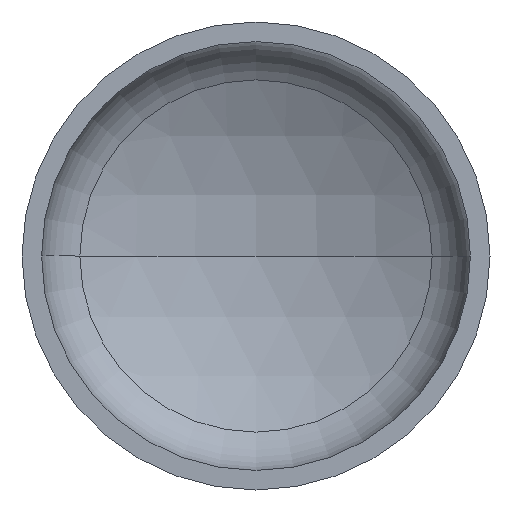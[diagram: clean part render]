
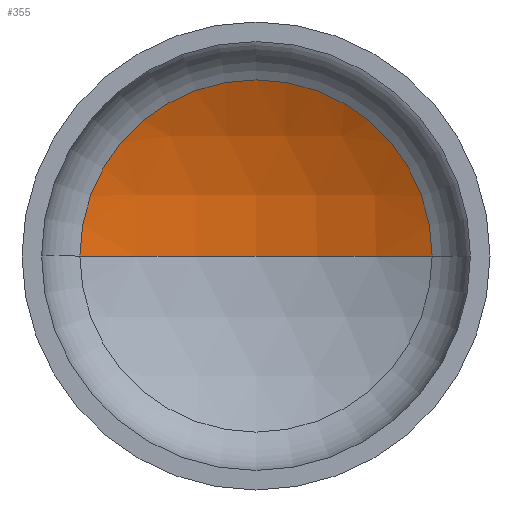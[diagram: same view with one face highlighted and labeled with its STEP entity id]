
A CAD part, front view. The second image highlights one B-rep face of the part: STEP entity #355.
In plain terms, the highlighted spherical face has radius 1760 mm.
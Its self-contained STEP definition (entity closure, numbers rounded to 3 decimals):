
#2 = EDGE_LOOP ( 'NONE', ( #23, #12, #107 ) ) ;
#4 = AXIS2_PLACEMENT_3D ( 'NONE', #189, #333, #280 ) ;
#12 = ORIENTED_EDGE ( 'NONE', *, *, #132, .T. ) ;
#17 = VERTEX_POINT ( 'NONE', #297 ) ;
#23 = ORIENTED_EDGE ( 'NONE', *, *, #347, .F. ) ;
#35 = DIRECTION ( 'NONE',  ( 0., -1., 0. ) ) ;
#60 = AXIS2_PLACEMENT_3D ( 'NONE', #258, #285, #128 ) ;
#63 = AXIS2_PLACEMENT_3D ( 'NONE', #162, #35, #184 ) ;
#93 = VERTEX_POINT ( 'NONE', #252 ) ;
#107 = ORIENTED_EDGE ( 'NONE', *, *, #130, .T. ) ;
#126 = CIRCLE ( 'NONE', #60, 1760. ) ;
#128 = DIRECTION ( 'NONE',  ( -1., 0., 0. ) ) ;
#130 = EDGE_CURVE ( 'NONE', #137, #17, #134, .T. ) ;
#132 = EDGE_CURVE ( 'NONE', #93, #137, #126, .T. ) ;
#134 = CIRCLE ( 'NONE', #63, 827.944 ) ;
#137 = VERTEX_POINT ( 'NONE', #230 ) ;
#144 = DIRECTION ( 'NONE',  ( -1., 0., 0. ) ) ;
#162 = CARTESIAN_POINT ( 'NONE',  ( 0., 400.03, 0. ) ) ;
#184 = DIRECTION ( 'NONE',  ( 1., 0., 0. ) ) ;
#189 = CARTESIAN_POINT ( 'NONE',  ( 0., -1153.067, 0. ) ) ;
#230 = CARTESIAN_POINT ( 'NONE',  ( 827.944, 400.03, 0. ) ) ;
#234 = FACE_OUTER_BOUND ( 'NONE', #2, .T. ) ;
#252 = CARTESIAN_POINT ( 'NONE',  ( 0., 606.933, 0. ) ) ;
#258 = CARTESIAN_POINT ( 'NONE',  ( 0., -1153.067, 0. ) ) ;
#280 = DIRECTION ( 'NONE',  ( 1., 0., 0. ) ) ;
#285 = DIRECTION ( 'NONE',  ( 0., 0., -1. ) ) ;
#297 = CARTESIAN_POINT ( 'NONE',  ( -827.944, 400.03, 0. ) ) ;
#303 = CARTESIAN_POINT ( 'NONE',  ( 0., -1153.067, 0. ) ) ;
#324 = DIRECTION ( 'NONE',  ( 0., 0., -1. ) ) ;
#333 = DIRECTION ( 'NONE',  ( 0., 0., 1. ) ) ;
#347 = EDGE_CURVE ( 'NONE', #93, #17, #409, .T. ) ;
#355 = ADVANCED_FACE ( 'NONE', ( #234 ), #398, .F. ) ;
#365 = AXIS2_PLACEMENT_3D ( 'NONE', #303, #324, #144 ) ;
#398 = SPHERICAL_SURFACE ( 'NONE', #365, 1760. ) ;
#409 = CIRCLE ( 'NONE', #4, 1760. ) ;
